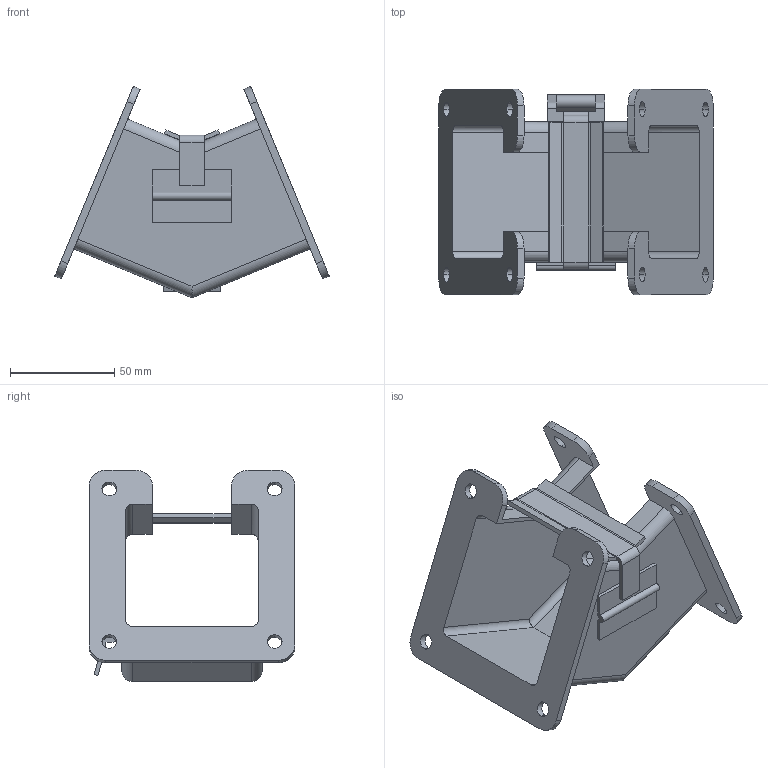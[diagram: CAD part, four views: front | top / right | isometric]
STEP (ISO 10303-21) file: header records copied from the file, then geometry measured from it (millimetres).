
FILE_DESCRIPTION((''),'1');
FILE_NAME('1','2001-04-18T',('jlue'),(''),'PRO/ENGINEER BY PARAMETRIC TECHNOLOGY CORPORATION, 9846','PRO/ENGINEER BY PARAMETRIC TECHNOLOGY CORPORATION, 9846','');
FILE_SCHEMA(('CONFIG_CONTROL_DESIGN'));
Length unit declared in the file: inch
Products named in the file (1): 1
Bounding box: 131.58 x 98.55 x 101.39 mm (x, y, z)
Surface area: 75823.8 mm2 (no closed solid volume)
Topology: 0 solids, 0 shells, 146 faces, 808 edges, 816 vertices
Faces by surface type: plane 84, cylinder 62
Entity records: 4088 total; most frequent: DIRECTION 800, COMPOSITE_CURVE_SEGMENT 800, CARTESIAN_POINT 630, TRIMMED_CURVE 400, VECTOR 292, LINE 292, AXIS2_PLACEMENT_3D 254, CURVE_BOUNDED_SURFACE 146
